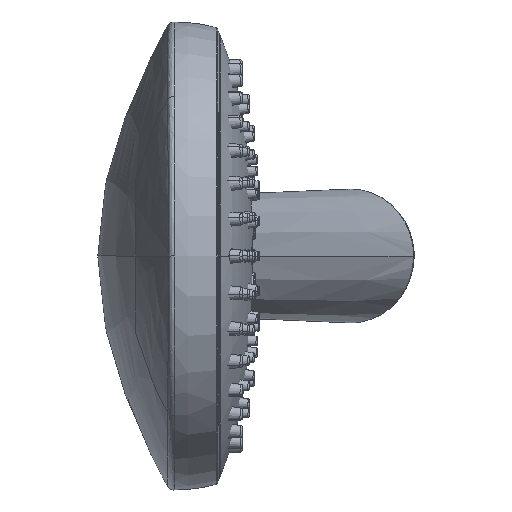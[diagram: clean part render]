
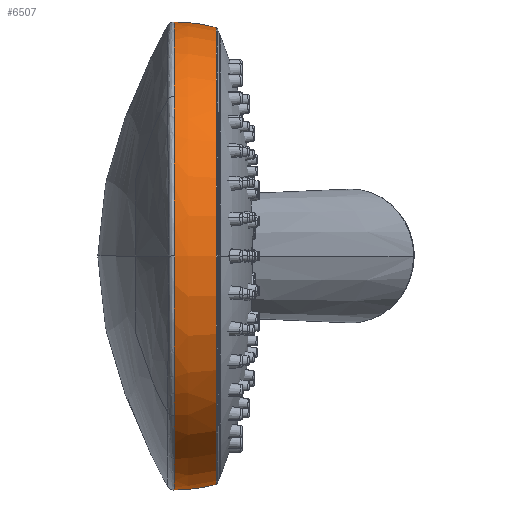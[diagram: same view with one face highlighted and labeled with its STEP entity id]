
A CAD part, left-side view. The second image highlights one B-rep face of the part: STEP entity #6507.
In plain terms, the highlighted face is a revolution surface.
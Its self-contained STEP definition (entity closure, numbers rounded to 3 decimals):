
#886=CARTESIAN_POINT('',(0.,0.827,49.473));
#888=CARTESIAN_POINT('',(0.,0.827,49.473));
#889=CARTESIAN_POINT('',(0.,2.403,49.969));
#890=CARTESIAN_POINT('',(0.,5.422,50.507));
#891=CARTESIAN_POINT('',(0.,8.501,50.673));
#892=CARTESIAN_POINT('',(0.,9.948,50.694));
#956=CARTESIAN_POINT('',(0.,0.827,0.));
#957=DIRECTION('',(0.,-1.,0.));
#958=DIRECTION('',(0.,0.,1.));
#959=AXIS2_PLACEMENT_3D('',#956,#957,#958);
#961=CARTESIAN_POINT('',(0.,0.827,
-49.473));
#962=CARTESIAN_POINT('',(0.,1.577,-49.709));
#963=CARTESIAN_POINT('',(0.,3.169,
-50.1));
#964=CARTESIAN_POINT('',(0.,5.633,
-50.467));
#965=CARTESIAN_POINT('',(0.,7.923,-50.641));
#966=CARTESIAN_POINT('',(0.,9.366,
-50.685));
#967=CARTESIAN_POINT('',(0.,9.948,
-50.694));
#969=CARTESIAN_POINT('',(0.,9.948,
-50.694));
#970=CARTESIAN_POINT('',(-1.518,9.943,-50.694));
#971=CARTESIAN_POINT('',(-4.546,9.937,-50.557));
#972=CARTESIAN_POINT('',(-9.03,9.935,-49.952));
#973=CARTESIAN_POINT('',(-13.415,9.936,-48.949));
#974=CARTESIAN_POINT('',(-16.998,9.94,-47.789));
#975=CARTESIAN_POINT('',(-19.501,9.941,-46.832));
#976=CARTESIAN_POINT('',(-22.936,9.942,-45.251));
#977=CARTESIAN_POINT('',(-25.194,9.942,-44.009));
#978=CARTESIAN_POINT('',(-27.389,9.941,-42.689));
#979=CARTESIAN_POINT('',(-30.113,9.939,-40.839));
#980=CARTESIAN_POINT('',(-33.461,9.935,-38.176));
#981=CARTESIAN_POINT('',(-35.871,9.93,-35.866));
#982=CARTESIAN_POINT('',(-37.099,9.927,-34.547));
#984=CARTESIAN_POINT('',(-50.692,9.82,0.));
#985=CARTESIAN_POINT('',(-50.692,9.82,0.127));
#986=CARTESIAN_POINT('',(-50.689,9.823,0.522));
#987=CARTESIAN_POINT('',(-50.683,9.837,1.261));
#988=CARTESIAN_POINT('',(-50.611,9.854,2.958));
#989=CARTESIAN_POINT('',(-50.58,9.855,3.387));
#990=CARTESIAN_POINT('',(-50.509,9.86,4.353));
#991=CARTESIAN_POINT('',(-50.415,9.864,5.343));
#992=CARTESIAN_POINT('',(-50.256,9.868,6.67));
#993=CARTESIAN_POINT('',(-50.146,9.869,7.442));
#994=CARTESIAN_POINT('',(-49.957,9.872,8.635));
#995=CARTESIAN_POINT('',(-49.684,9.876,10.13));
#996=CARTESIAN_POINT('',(-49.207,9.88,12.226));
#997=CARTESIAN_POINT('',(-48.884,9.883,13.442));
#998=CARTESIAN_POINT('',(-48.33,9.886,15.37));
#999=CARTESIAN_POINT('',(-47.398,9.892,18.043));
#1000=CARTESIAN_POINT('',(-46.517,9.896,20.187));
#1001=CARTESIAN_POINT('',(-45.46,9.901,22.507));
#1002=CARTESIAN_POINT('',(-43.844,9.907,25.504));
#1003=CARTESIAN_POINT('',(-42.519,9.912,27.651));
#1004=CARTESIAN_POINT('',(-40.419,9.919,30.698));
#1005=CARTESIAN_POINT('',(-38.343,9.924,33.211));
#1006=CARTESIAN_POINT('',(-37.099,9.927,34.547));
#1498=CARTESIAN_POINT('',(-50.692,9.82,
0.));
#1499=CARTESIAN_POINT('',(-50.692,9.817,
-0.129));
#1500=CARTESIAN_POINT('',(-50.689,9.825,
-0.522));
#1501=CARTESIAN_POINT('',(-50.683,9.837,
-1.268));
#1502=CARTESIAN_POINT('',(-50.611,9.854,
-2.961));
#1503=CARTESIAN_POINT('',(-50.579,9.855,
-3.393));
#1504=CARTESIAN_POINT('',(-50.508,9.86,
-4.359));
#1505=CARTESIAN_POINT('',(-50.414,9.864,
-5.351));
#1506=CARTESIAN_POINT('',(-50.255,9.868,
-6.675));
#1507=CARTESIAN_POINT('',(-50.145,9.87,
-7.449));
#1508=CARTESIAN_POINT('',(-49.956,9.872,
-8.643));
#1509=CARTESIAN_POINT('',(-49.681,9.876,
-10.142));
#1510=CARTESIAN_POINT('',(-49.206,9.88,
-12.232));
#1511=CARTESIAN_POINT('',(-48.881,9.883,
-13.452));
#1512=CARTESIAN_POINT('',(-48.326,9.886,
-15.382));
#1513=CARTESIAN_POINT('',(-47.394,9.892,
-18.053));
#1514=CARTESIAN_POINT('',(-46.513,9.896,
-20.196));
#1515=CARTESIAN_POINT('',(-45.455,9.901,
-22.518));
#1516=CARTESIAN_POINT('',(-43.841,9.907,
-25.51));
#1517=CARTESIAN_POINT('',(-42.515,9.912,
-27.658));
#1518=CARTESIAN_POINT('',(-40.415,9.919,
-30.702));
#1519=CARTESIAN_POINT('',(-38.341,9.924,
-33.213));
#1520=CARTESIAN_POINT('',(-37.099,9.927,
-34.547));
#1672=CARTESIAN_POINT('',(0.,9.948,
50.694));
#1673=CARTESIAN_POINT('',(-1.517,9.944,50.694));
#1674=CARTESIAN_POINT('',(-4.544,9.936,50.557));
#1675=CARTESIAN_POINT('',(-9.026,9.935,49.953));
#1676=CARTESIAN_POINT('',(-13.41,9.936,48.95));
#1677=CARTESIAN_POINT('',(-16.995,9.94,47.79));
#1678=CARTESIAN_POINT('',(-19.498,9.941,46.833));
#1679=CARTESIAN_POINT('',(-22.933,9.942,45.252));
#1680=CARTESIAN_POINT('',(-25.194,9.942,44.009));
#1681=CARTESIAN_POINT('',(-27.389,9.941,42.69));
#1682=CARTESIAN_POINT('',(-30.113,9.939,40.839));
#1683=CARTESIAN_POINT('',(-33.461,9.935,38.176));
#1684=CARTESIAN_POINT('',(-35.871,9.93,35.866));
#1685=CARTESIAN_POINT('',(-37.099,9.927,34.547));
#1871=VERTEX_POINT('',#886);
#1873=VERTEX_POINT('',#892);
#1874=CARTESIAN_POINT('',(0.,0.827,
-49.473));
#1875=VERTEX_POINT('',#1874);
#1876=VERTEX_POINT('',#967);
#1877=VERTEX_POINT('',#982);
#1878=VERTEX_POINT('',#1498);
#1879=VERTEX_POINT('',#1006);
#6478=CARTESIAN_POINT('',(-50.695,10.04,0.));
#6479=CARTESIAN_POINT('',(-50.695,10.009,0.));
#6480=CARTESIAN_POINT('',(-50.686,9.397,0.));
#6481=CARTESIAN_POINT('',(-50.641,7.923,0.));
#6482=CARTESIAN_POINT('',(-50.467,5.633,0.));
#6483=CARTESIAN_POINT('',(-50.1,3.169,0.));
#6484=CARTESIAN_POINT('',(-49.702,1.547,0.));
#6485=CARTESIAN_POINT('',(-49.454,0.768,0.));
#6486=CARTESIAN_POINT('',(-49.445,0.739,0.));
#6488=CARTESIAN_POINT('',(0.,0.,0.));
#6489=DIRECTION('',(0.,1.,0.));
#6490=AXIS1_PLACEMENT('',#6488,#6489);
#6491=SURFACE_OF_REVOLUTION('',#6487,#6490);
#6493=ORIENTED_EDGE('',*,*,#6492,.T.);
#6495=ORIENTED_EDGE('',*,*,#6494,.T.);
#6497=ORIENTED_EDGE('',*,*,#6496,.T.);
#6499=ORIENTED_EDGE('',*,*,#6498,.F.);
#6501=ORIENTED_EDGE('',*,*,#6500,.T.);
#6503=ORIENTED_EDGE('',*,*,#6502,.F.);
#6504=ORIENTED_EDGE('',*,*,#6470,.F.);
#6505=EDGE_LOOP('',(#6493,#6495,#6497,#6499,#6501,#6503,#6504));
#6506=FACE_OUTER_BOUND('',#6505,.F.);
#6507=ADVANCED_FACE('',(#6506),#6491,.F.);
#893=B_SPLINE_CURVE_WITH_KNOTS('',3,(#888,#889,#890,#891,#892),.UNSPECIFIED.,
.F.,.F.,(4,1,4),(0.,0.533,1.),.UNSPECIFIED.);
#960=CIRCLE('',#959,49.473);
#968=B_SPLINE_CURVE_WITH_KNOTS('',3,(#961,#962,#963,#964,#965,#966,#967),
.UNSPECIFIED.,.F.,.F.,(4,1,1,1,4),(0.,0.254,0.533,
0.812,1.),.UNSPECIFIED.);
#983=B_SPLINE_CURVE_WITH_KNOTS('',3,(#969,#970,#971,#972,#973,#974,#975,#976,
#977,#978,#979,#980,#981,#982),.UNSPECIFIED.,.F.,.F.,(4,1,1,1,1,1,1,1,1,1,1,4),(
0.,0.091,0.182,0.273,0.364,
0.455,0.545,0.636,0.727,
0.818,0.909,1.),.UNSPECIFIED.);
#1007=B_SPLINE_CURVE_WITH_KNOTS('',3,(#984,#985,#986,#987,#988,#989,#990,#991,
#992,#993,#994,#995,#996,#997,#998,#999,#1000,#1001,#1002,#1003,#1004,#1005,
#1006),.UNSPECIFIED.,.F.,.F.,(4,1,1,1,1,1,1,1,1,1,1,1,1,1,1,1,1,1,1,1,4),(0.,
0.05,0.1,0.15,0.2,0.25,0.3,0.35,0.4,0.45,0.5,0.55,0.6,
0.65,0.7,0.75,0.8,0.85,0.9,0.95,1.),.UNSPECIFIED.);
#1521=B_SPLINE_CURVE_WITH_KNOTS('',3,(#1498,#1499,#1500,#1501,#1502,#1503,#1504,
#1505,#1506,#1507,#1508,#1509,#1510,#1511,#1512,#1513,#1514,#1515,#1516,#1517,
#1518,#1519,#1520),.UNSPECIFIED.,.F.,.F.,(4,1,1,1,1,1,1,1,1,1,1,1,1,1,1,1,1,1,1,
1,4),(0.,0.05,0.1,0.15,0.2,0.25,0.3,0.35,0.4,0.45,0.5,
0.55,0.6,0.65,0.7,0.75,0.8,0.85,0.9,0.95,1.),.UNSPECIFIED.);
#1686=B_SPLINE_CURVE_WITH_KNOTS('',3,(#1672,#1673,#1674,#1675,#1676,#1677,#1678,
#1679,#1680,#1681,#1682,#1683,#1684,#1685),.UNSPECIFIED.,.F.,.F.,(4,1,1,1,1,1,1,
1,1,1,1,4),(0.,0.091,0.182,0.273,
0.364,0.455,0.545,0.636,
0.727,0.818,0.909,1.),.UNSPECIFIED.);
#6470=EDGE_CURVE('',#1871,#1873,#893,.T.);
#6487=B_SPLINE_CURVE_WITH_KNOTS('',3,(#6478,#6479,#6480,#6481,#6482,#6483,#6484,
#6485,#6486),.UNSPECIFIED.,.F.,.F.,(4,1,1,1,1,1,4),(0.,0.01,
0.194,0.468,0.742,0.99,1.),
.UNSPECIFIED.);
#6492=EDGE_CURVE('',#1871,#1875,#960,.T.);
#6494=EDGE_CURVE('',#1875,#1876,#968,.T.);
#6496=EDGE_CURVE('',#1876,#1877,#983,.T.);
#6498=EDGE_CURVE('',#1878,#1877,#1521,.T.);
#6500=EDGE_CURVE('',#1878,#1879,#1007,.T.);
#6502=EDGE_CURVE('',#1873,#1879,#1686,.T.);
